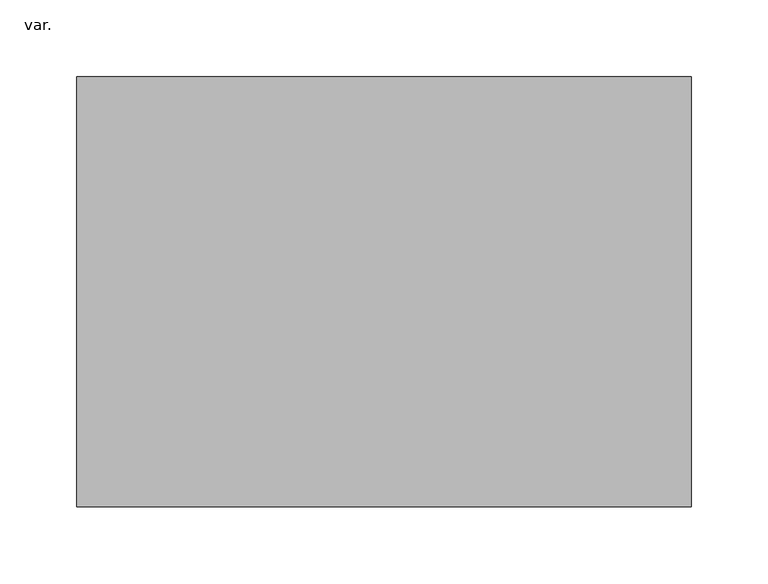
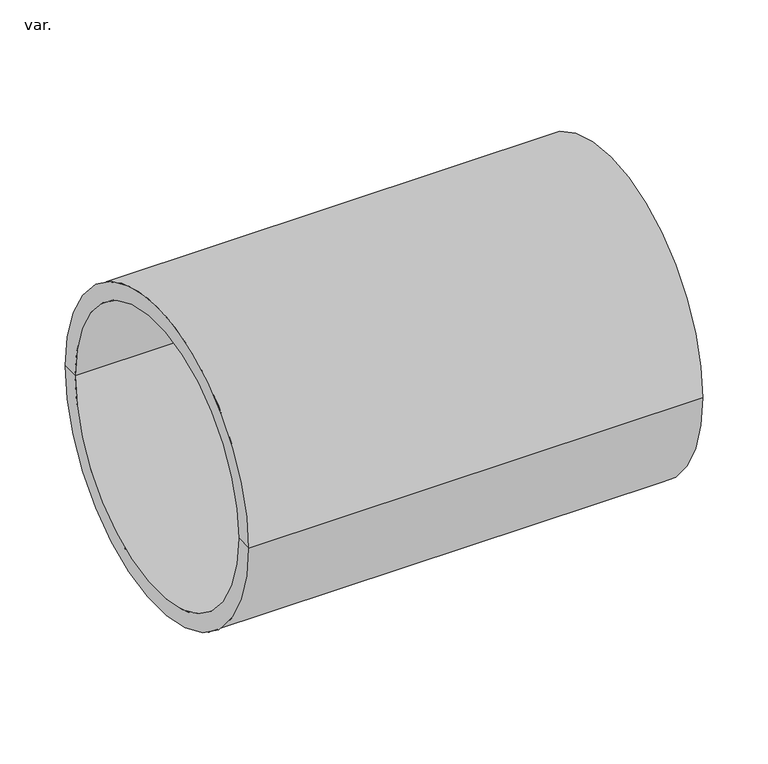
"""IFC4 building model written with IfcOpenShell, lengths in millimetres: pipe fitting geometry, NLRS_52_PIF_UN_Vacurain Flex expansiestuk_Dyka : var.."""

from ifc_helpers import new_model, si_unit, frame, origin, place, context, project, spatial, polyline, circle_curve, source, transform, mapped, element, save
from ifc_brep_helpers import plane_surface, cylinder_surface, revolved_surface, advanced_brep


def var_32dd6fe3(model_context):
    return source(origin(), model_context, "Body", "AdvancedBrep", [
        advanced_brep(
        [(113.0, -140.0, 0.0), (113.0, 140.0, 0.0), (113.0, 125.0, 0.0), (113.0, -125.0, 0.0), (-287.0, -140.0, 0.0), (-287.0, 140.0, 0.0), (-287.0, -125.0, 0.0), (-287.0, 125.0, 0.0), (-113.0, -125.0, 0.0), (-113.0, 125.0, 0.0), (-113.0, 0.0, 0.0), (13.0, -125.0, 0.0), (13.0, 125.0, 0.0), (13.0, 0.0, 0.0)],
        [
            (0, 1, circle_curve(frame((113.0, 0.0, 0.0), z_axis=(1.0, 0.0, 0.0), x_axis=(0.0, 1.0, 0.0)), 140.0)),
            (1, 2),
            (2, 3, circle_curve(frame((113.0, 0.0, 0.0), z_axis=(-1.0, 0.0, 0.0), x_axis=(0.0, 1.0, 0.0)), 125.0)),
            (3, 0),
            (1, 0, circle_curve(frame((113.0, 0.0, 0.0), z_axis=(1.0, 0.0, 0.0), x_axis=(0.0, 1.0, 0.0)), 140.0)),
            (3, 2, circle_curve(frame((113.0, 0.0, 0.0), z_axis=(-1.0, 0.0, 0.0), x_axis=(0.0, 1.0, 0.0)), 125.0)),
            (4, 5, circle_curve(frame((-287.0, 0.0, 0.0), z_axis=(1.0, 0.0, 0.0), x_axis=(0.0, 1.0, 0.0)), 140.0)),
            (5, 1),
            (0, 4),
            (5, 4, circle_curve(frame((-287.0, 0.0, 0.0), z_axis=(1.0, 0.0, 0.0), x_axis=(0.0, 1.0, 0.0)), 140.0)),
            (6, 7, circle_curve(frame((-287.0, 0.0, 0.0), z_axis=(1.0, 0.0, 0.0), x_axis=(0.0, 1.0, 0.0)), 125.0)),
            (7, 5),
            (4, 6),
            (7, 6, circle_curve(frame((-287.0, 0.0, 0.0), z_axis=(1.0, 0.0, 0.0), x_axis=(0.0, 1.0, 0.0)), 125.0)),
            (8, 9, circle_curve(frame((-113.0, 0.0, 0.0), z_axis=(1.0, 0.0, 0.0), x_axis=(0.0, 1.0, 0.0)), 125.0)),
            (9, 7),
            (6, 8),
            (9, 8, circle_curve(frame((-113.0, 0.0, 0.0), z_axis=(1.0, 0.0, 0.0), x_axis=(0.0, 1.0, 0.0)), 125.0)),
            (10, 9),
            (8, 10),
            (11, 12, circle_curve(frame((13.0, 0.0, 0.0), z_axis=(1.0, 0.0, 0.0), x_axis=(0.0, 1.0, 0.0)), 125.0)),
            (12, 13),
            (13, 11),
            (12, 11, circle_curve(frame((13.0, 0.0, 0.0), z_axis=(1.0, 0.0, 0.0), x_axis=(0.0, 1.0, 0.0)), 125.0)),
            (2, 12),
            (11, 3),
        ],
        [
            plane_surface(frame((113.0, 0.0, 0.0), z_axis=(1.0, 0.0, 0.0), x_axis=(0.0, 1.0, 0.0))),
            cylinder_surface(frame((-293.9, 0.0, 0.0), z_axis=(-1.0, 0.0, 0.0), x_axis=(0.0, 1.0, 0.0)), 140.0),
            plane_surface(frame((-287.0, 0.0, 0.0), z_axis=(-1.0, 0.0, 0.0), x_axis=(0.0, 1.0, 0.0))),
            revolved_surface(polyline([(-287.0, 125.0, 0.0), (-113.0, 125.0, 0.0)]), (-293.9, 0.0, 0.0), (-1.0, 0.0, 0.0)),
            plane_surface(frame((-113.0, 0.0, 0.0), z_axis=(-1.0, 0.0, 0.0), x_axis=(0.0, 1.0, 0.0))),
            plane_surface(frame((13.0, 0.0, 0.0), z_axis=(1.0, 0.0, 0.0), x_axis=(0.0, 1.0, 0.0))),
            revolved_surface(polyline([(13.0, 125.0, 0.0), (113.0, 125.0, 0.0)]), (-293.9, 0.0, 0.0), (-1.0, 0.0, 0.0)),
        ],
        [
            (0, [[1, 2, 3, 4]]),
            (0, [[5, -4, 6, -2]]),
            (1, [[7, 8, -1, 9]]),
            (1, [[10, -9, -5, -8]]),
            (2, [[11, 12, -7, 13]]),
            (2, [[14, -13, -10, -12]]),
            (3, [[15, 16, -11, 17]]),
            (3, [[18, -17, -14, -16]]),
            (4, [[19, -15, 20]]),
            (4, [[-20, -18, -19]]),
            (5, [[21, 22, 23]]),
            (5, [[24, -23, -22]]),
            (6, [[-3, 25, -21, 26]]),
            (6, [[-6, -26, -24, -25]]),
        ],
    ),
    ])


if __name__ == "__main__":
    model = new_model("IFC4")
    model_context = context("Model", 3, world=origin())
    ifc_project = project(units=[si_unit("LENGTHUNIT", "METRE", prefix="MILLI")], contexts=[model_context])
    site = spatial("IfcSite", under=ifc_project)
    building = spatial("IfcBuilding", under=site)
    placement = place(None, origin())
    var_shape = var_32dd6fe3(model_context)
    element("IfcPipeFitting", 1, ObjectType="NLRS_52_PIF_UN_Vacurain Flex expansiestuk_Dyka : var.", at=placement, inside=building, context=model_context, shape_type="MappedRepresentation", body=[
        mapped(var_shape, transform((0.0, 0.0, 0.0), x_axis=(1.0, 0.0, 0.0), y_axis=(0.0, 1.0, 0.0), z_axis=(0.0, 0.0, 1.0))),
    ])
    save(model, "model.ifc")
